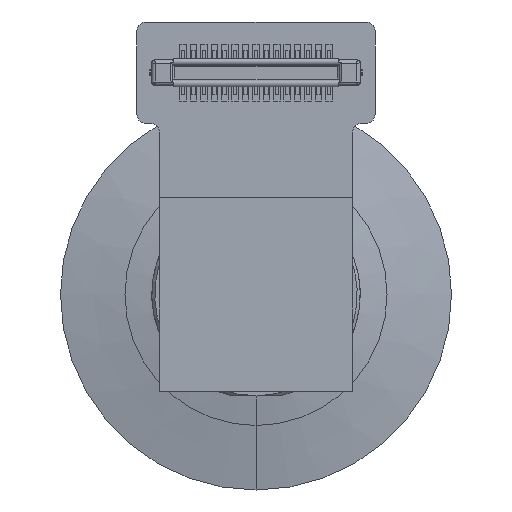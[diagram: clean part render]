
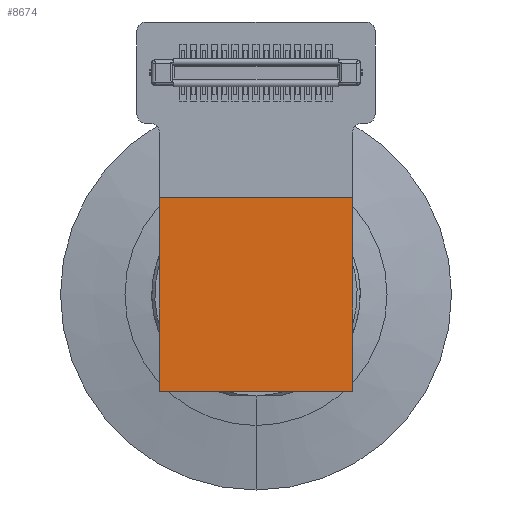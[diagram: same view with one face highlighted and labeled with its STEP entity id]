
A CAD part, front view. The second image highlights one B-rep face of the part: STEP entity #8674.
In plain terms, the highlighted planar face has unit normal (0, -1, 0).
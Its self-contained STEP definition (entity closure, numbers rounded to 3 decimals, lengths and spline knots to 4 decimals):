
#8559=DIRECTION('',(-1.,0.,0.));
#8560=VECTOR('',#8559,6.5);
#8561=CARTESIAN_POINT('',(3.25,-0.18,-3.25));
#8562=LINE('',#8561,#8560);
#8563=DIRECTION('',(0.,0.,1.));
#8564=VECTOR('',#8563,6.5);
#8565=CARTESIAN_POINT('',(-3.25,-0.18,-3.25));
#8566=LINE('',#8565,#8564);
#8567=DIRECTION('',(1.,0.,0.));
#8568=VECTOR('',#8567,6.5);
#8569=CARTESIAN_POINT('',(-3.25,-0.18,3.25));
#8570=LINE('',#8569,#8568);
#8571=DIRECTION('',(0.,0.,-1.));
#8572=VECTOR('',#8571,6.5);
#8573=CARTESIAN_POINT('',(3.25,-0.18,3.25));
#8574=LINE('',#8573,#8572);
#8583=CARTESIAN_POINT('',(-3.25,-0.18,-3.25));
#8584=VERTEX_POINT('',#8583);
#8585=CARTESIAN_POINT('',(3.25,-0.18,-3.25));
#8586=VERTEX_POINT('',#8585);
#8587=CARTESIAN_POINT('',(-3.25,-0.18,3.25));
#8588=VERTEX_POINT('',#8587);
#8589=CARTESIAN_POINT('',(3.25,-0.18,3.25));
#8590=VERTEX_POINT('',#8589);
#8663=CARTESIAN_POINT('',(0.,-0.18,0.));
#8664=DIRECTION('',(0.,1.,0.));
#8665=DIRECTION('',(0.,0.,-1.));
#8666=AXIS2_PLACEMENT_3D('',#8663,#8664,#8665);
#8667=PLANE('',#8666);
#8668=ORIENTED_EDGE('',*,*,#8615,.T.);
#8669=ORIENTED_EDGE('',*,*,#8630,.T.);
#8670=ORIENTED_EDGE('',*,*,#8644,.T.);
#8671=ORIENTED_EDGE('',*,*,#8657,.T.);
#8672=EDGE_LOOP('',(#8668,#8669,#8670,#8671));
#8673=FACE_OUTER_BOUND('',#8672,.F.);
#8615=EDGE_CURVE('',#8586,#8584,#8562,.T.);
#8630=EDGE_CURVE('',#8584,#8588,#8566,.T.);
#8644=EDGE_CURVE('',#8588,#8590,#8570,.T.);
#8657=EDGE_CURVE('',#8590,#8586,#8574,.T.);
#8674=ADVANCED_FACE('',(#8673),#8667,.F.);
